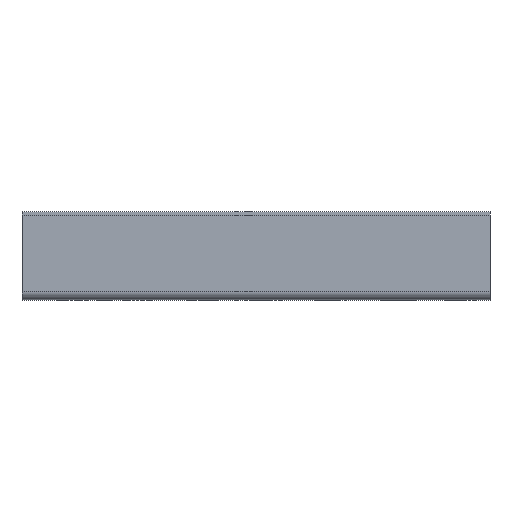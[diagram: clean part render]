
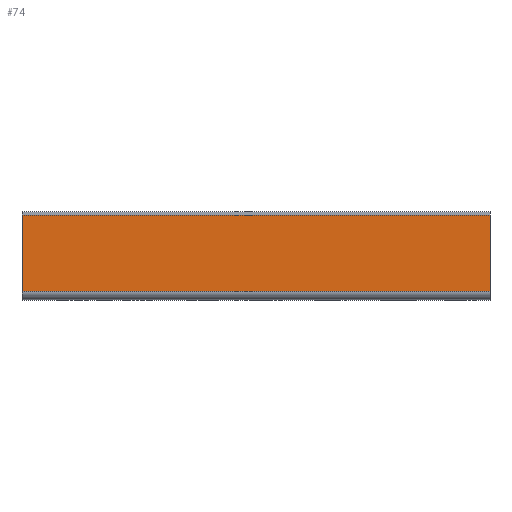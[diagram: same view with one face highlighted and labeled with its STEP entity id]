
A CAD part, top view. The second image highlights one B-rep face of the part: STEP entity #74.
In plain terms, the highlighted planar face has unit normal (0, 0, 1).
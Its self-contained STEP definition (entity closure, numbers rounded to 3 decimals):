
#74 = ADVANCED_FACE ( 'NONE', ( #1749 ), #3599, .F. ) ;
#435 = ORIENTED_EDGE ( 'NONE', *, *, #3000, .T. ) ;
#436 = ORIENTED_EDGE ( 'NONE', *, *, #3181, .F. ) ;
#437 = ORIENTED_EDGE ( 'NONE', *, *, #3360, .F. ) ;
#438 = ORIENTED_EDGE ( 'NONE', *, *, #3180, .T. ) ;
#1490 = EDGE_LOOP ( 'NONE', ( #435, #436, #437, #438 ) ) ;
#1749 = FACE_OUTER_BOUND ( 'NONE', #1490, .T. ) ;
#2605 = VERTEX_POINT ( 'NONE', #4675 ) ;
#2606 = VERTEX_POINT ( 'NONE', #4676 ) ;
#2699 = VERTEX_POINT ( 'NONE', #4769 ) ;
#2700 = VERTEX_POINT ( 'NONE', #4770 ) ;
#3000 = EDGE_CURVE ( 'NONE', #2700, #2699, #5148, .T. ) ;
#3180 = EDGE_CURVE ( 'NONE', #2605, #2700, #5440, .T. ) ;
#3181 = EDGE_CURVE ( 'NONE', #2606, #2699, #5442, .T. ) ;
#3360 = EDGE_CURVE ( 'NONE', #2605, #2606, #5696, .T. ) ;
#3409 = AXIS2_PLACEMENT_3D ( 'NONE', #3600, #3601, #3602 ) ;
#3599 = PLANE ( 'NONE',  #3409 ) ;
#3600 = CARTESIAN_POINT ( 'NONE',  ( 215.5, 39., 0. ) ) ;
#3601 = DIRECTION ( 'NONE',  ( 0., 0., -1. ) ) ;
#3602 = DIRECTION ( 'NONE',  ( 0., 1., 0. ) ) ;
#4675 = CARTESIAN_POINT ( 'NONE',  ( 215.5, 39., 0. ) ) ;
#4676 = CARTESIAN_POINT ( 'NONE',  ( 215.5, 4., 0. ) ) ;
#4769 = CARTESIAN_POINT ( 'NONE',  ( 0., 4., 0. ) ) ;
#4770 = CARTESIAN_POINT ( 'NONE',  ( 0., 39., 0. ) ) ;
#5148 = LINE ( 'NONE', #5989, #5150 ) ;
#5150 = VECTOR ( 'NONE', #5990, 1000. ) ;
#5440 = LINE ( 'NONE', #6563, #5441 ) ;
#5441 = VECTOR ( 'NONE', #6564, 1000. ) ;
#5442 = LINE ( 'NONE', #6565, #5443 ) ;
#5443 = VECTOR ( 'NONE', #6566, 1000. ) ;
#5696 = LINE ( 'NONE', #7102, #5697 ) ;
#5697 = VECTOR ( 'NONE', #7103, 1000. ) ;
#5989 = CARTESIAN_POINT ( 'NONE',  ( 0., 39., 0. ) ) ;
#5990 = DIRECTION ( 'NONE',  ( 0., -1., 0. ) ) ;
#6563 = CARTESIAN_POINT ( 'NONE',  ( 215.5, 39., 0. ) ) ;
#6564 = DIRECTION ( 'NONE',  ( -1., 0., 0. ) ) ;
#6565 = CARTESIAN_POINT ( 'NONE',  ( 215.5, 4., 0. ) ) ;
#6566 = DIRECTION ( 'NONE',  ( -1., 0., 0. ) ) ;
#7102 = CARTESIAN_POINT ( 'NONE',  ( 215.5, 39., 0. ) ) ;
#7103 = DIRECTION ( 'NONE',  ( 0., -1., 0. ) ) ;
